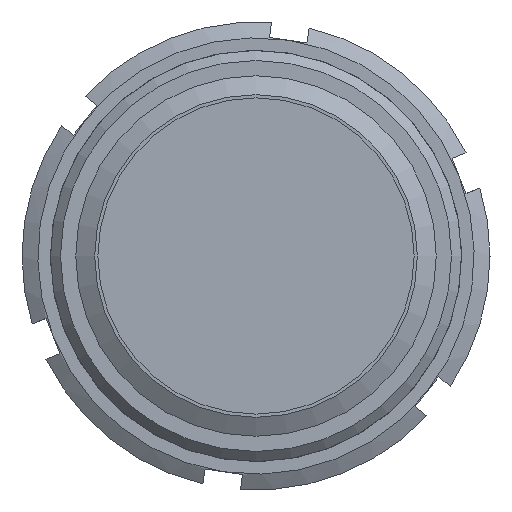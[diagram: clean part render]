
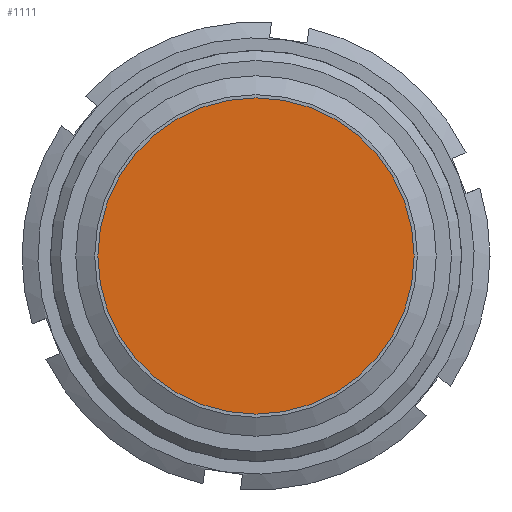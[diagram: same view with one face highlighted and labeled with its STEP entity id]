
A CAD part, left-side view. The second image highlights one B-rep face of the part: STEP entity #1111.
In plain terms, the highlighted planar face has unit normal (-1, 0, 0) as drawn and (0, -1, 0) by its records, which use the part's own axes.
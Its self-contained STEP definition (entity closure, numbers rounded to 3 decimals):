
#445=ORIENTED_EDGE('',*,*,#610,.T.);
#610=EDGE_CURVE('',#714,#714,#776,.F.);
#714=VERTEX_POINT('',#2193);
#776=CIRCLE('',#1390,55.5);
#865=EDGE_LOOP('',(#445));
#979=FACE_BOUND('',#865,.T.);
#1051=PLANE('',#1389);
#1111=ADVANCED_FACE('',(#979),#1051,.F.);
#1389=AXIS2_PLACEMENT_3D('',#2191,#1670,#1671);
#1390=AXIS2_PLACEMENT_3D('',#2192,#1672,#1673);
#1670=DIRECTION('',(0.,1.,0.));
#1671=DIRECTION('',(0.,0.,1.));
#1672=DIRECTION('',(0.,1.,0.));
#1673=DIRECTION('',(0.,0.,1.));
#2191=CARTESIAN_POINT('',(0.,0.,0.));
#2192=CARTESIAN_POINT('',(0.,0.,0.));
#2193=CARTESIAN_POINT('',(0.,0.,55.5));
